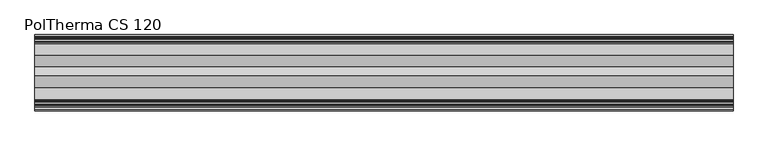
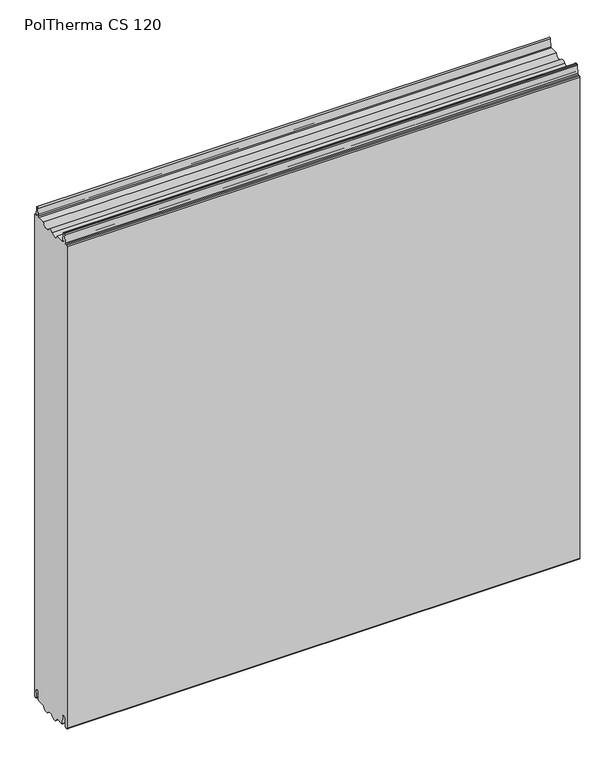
"""IFC4 building model written with IfcOpenShell, lengths in millimetres: plate geometry, Europanels_Poltherma CS_Hz : PolTherma CS 120."""

from ifc_helpers import new_model, si_unit, point, frame, frame_2d, origin, place, context, project, spatial, polyline, circle_curve, trimmed, segment, composite_curve, outline, extrude, source, transform, mapped, element, save


def poltherma_cs_120_fbbb0af5(model_context):
    return source(origin(), model_context, "Body", "SweptSolid", [
        extrude(outline(composite_curve([segment(polyline([(-60.0, 3.4988953), (-60.0, 1096.5011047)]), True, "CONTINUOUS"), segment(trimmed(circle_curve(frame_2d((-58.0, 1096.5011047)), 2.0), [point((-60.0, 1096.5011047))], [point((-58.0, 1098.5011047))], False, "CARTESIAN"), True, "CONTINUOUS"), segment(polyline([(-58.0, 1098.5011047), (-54.244573, 1098.5011047)]), True, "CONTINUOUS"), segment(trimmed(circle_curve(frame_2d((-54.244573, 1100.5011047)), 2.0), [point((-54.244573, 1098.5011047))], [point((-52.2483736, 1100.3778643))], True, "CARTESIAN"), True, "CONTINUOUS"), segment(polyline([(-52.2483736, 1100.3778643), (-51.1836192, 1117.624345)]), True, "CONTINUOUS"), segment(trimmed(circle_curve(frame_2d((-49.1874198, 1117.5011047)), 2.0), [point((-51.1836192, 1117.624345))], [point((-49.1874198, 1119.5011047))], False, "CARTESIAN"), True, "CONTINUOUS"), segment(polyline([(-49.1874198, 1119.5011047), (-46.4480373, 1119.5011047)]), True, "CONTINUOUS"), segment(trimmed(circle_curve(frame_2d((-46.4480373, 1117.5011047)), 2.0), [point((-46.4480373, 1119.5011047))], [point((-44.4498501, 1117.5862394))], False, "CARTESIAN"), True, "CONTINUOUS"), segment(polyline([(-44.4498501, 1117.5862394), (-43.7101357, 1100.2244834)]), True, "CONTINUOUS"), segment(trimmed(circle_curve(frame_2d((-41.9117672, 1100.3011047)), 1.8), [point((-43.7101357, 1100.2244834))], [point((-41.9117672, 1098.5011047))], True, "CARTESIAN"), True, "CONTINUOUS"), segment(polyline([(-41.9117672, 1098.5011047), (-22.9234285, 1098.5011047)]), True, "CONTINUOUS"), segment(trimmed(circle_curve(frame_2d((-12.3, 1101.354658)), 11.0), [point((-22.9234285, 1098.5011047))], [point((-4.05, 1094.0788419))], True, "CARTESIAN"), True, "CONTINUOUS"), segment(trimmed(circle_curve(frame_2d((2.7, 1088.1259015)), 9.0), [point((-4.05, 1094.0788419))], [point((9.45, 1094.0788419))], False, "CARTESIAN"), True, "CONTINUOUS"), segment(trimmed(circle_curve(frame_2d((17.7, 1101.354658)), 11.0), [point((9.45, 1094.0788419))], [point((28.3234285, 1098.5011047))], True, "CARTESIAN"), True, "CONTINUOUS"), segment(polyline([(28.3234285, 1098.5011047), (46.113894, 1098.5011047)]), True, "CONTINUOUS"), segment(trimmed(circle_curve(frame_2d((46.113894, 1100.5011047)), 2.0), [point((46.113894, 1098.5011047))], [point((48.1120505, 1100.4152514))], True, "CARTESIAN"), True, "CONTINUOUS"), segment(polyline([(48.1120505, 1100.4152514), (48.8434291, 1117.437418)]), True, "CONTINUOUS"), segment(trimmed(circle_curve(frame_2d((51.0191836, 1117.343934)), 2.1777619), [point((48.8434291, 1117.437418))], [point((53.1927202, 1117.4795275))], False, "CARTESIAN"), True, "CONTINUOUS"), segment(polyline([(53.1927202, 1117.4795275), (54.2596673, 1100.3765791)]), True, "CONTINUOUS"), segment(trimmed(circle_curve(frame_2d((56.2557869, 1100.5011047)), 2.0), [point((54.2596673, 1100.3765791))], [point((56.2557869, 1098.5011047))], True, "CARTESIAN"), True, "CONTINUOUS"), segment(polyline([(56.2557869, 1098.5011047), (58.0, 1098.5011047)]), True, "CONTINUOUS"), segment(trimmed(circle_curve(frame_2d((58.0, 1096.5011047)), 2.0), [point((58.0, 1098.5011047))], [point((60.0, 1096.5011047))], False, "CARTESIAN"), True, "CONTINUOUS"), segment(polyline([(60.0, 1096.5011047), (60.0, 3.8623872)]), True, "CONTINUOUS"), segment(trimmed(circle_curve(frame_2d((57.6319739, 3.8623872)), 2.3680261), [point((60.0, 3.8623872))], [point((55.2674058, 3.7344618))], False, "CARTESIAN"), True, "CONTINUOUS"), segment(polyline([(55.2674058, 3.7344618), (54.3293468, 21.0735079)]), True, "CONTINUOUS"), segment(trimmed(circle_curve(frame_2d((51.0496929, 20.8960755)), 3.28445), [point((54.3293468, 21.0735079))], [point((47.7706872, 21.085108))], True, "CARTESIAN"), True, "CONTINUOUS"), segment(polyline([(47.7706872, 21.085108), (46.7366349, 3.1481762)]), True, "CONTINUOUS"), segment(trimmed(circle_curve(frame_2d((44.9895357, 3.2488953)), 1.75), [point((46.7366349, 3.1481762))], [point((44.9895357, 1.4988953))], False, "CARTESIAN"), True, "CONTINUOUS"), segment(polyline([(44.9895357, 1.4988953), (27.5267156, 1.4988953)]), True, "CONTINUOUS"), segment(trimmed(circle_curve(frame_2d((17.7, 3.3524487)), 10.0), [point((27.5267156, 1.4988953))], [point((10.2, -3.2619295))], False, "CARTESIAN"), True, "CONTINUOUS"), segment(trimmed(circle_curve(frame_2d((2.7, -9.8763078)), 10.0), [point((10.2, -3.2619295))], [point((-4.8, -3.2619295))], True, "CARTESIAN"), True, "CONTINUOUS"), segment(trimmed(circle_curve(frame_2d((-12.3, 3.3524487)), 10.0), [point((-4.8, -3.2619295))], [point((-22.1267156, 1.4988953))], False, "CARTESIAN"), True, "CONTINUOUS"), segment(polyline([(-22.1267156, 1.4988953), (-40.5507777, 1.4988953)]), True, "CONTINUOUS"), segment(trimmed(circle_curve(frame_2d((-40.5507777, 3.2988953)), 1.8), [point((-40.5507777, 1.4988953))], [point((-42.3477941, 3.1952985))], False, "CARTESIAN"), True, "CONTINUOUS"), segment(polyline([(-42.3477941, 3.1952985), (-43.3842966, 21.1747334)]), True, "CONTINUOUS"), segment(trimmed(circle_curve(frame_2d((-46.3793238, 21.0020721)), 3.0), [point((-43.3842966, 21.1747334))], [point((-46.3793238, 24.0020721))], True, "CARTESIAN"), True, "CONTINUOUS"), segment(polyline([(-46.3793238, 24.0020721), (-49.3209015, 24.0020721)]), True, "CONTINUOUS"), segment(trimmed(circle_curve(frame_2d((-49.3209015, 21.0020721)), 3.0), [point((-49.3209015, 24.0020721))], [point((-52.3165207, 21.1641379))], True, "CARTESIAN"), True, "CONTINUOUS"), segment(polyline([(-52.3165207, 21.1641379), (-53.2780726, 3.3908514)]), True, "CONTINUOUS"), segment(trimmed(circle_curve(frame_2d((-55.2751521, 3.4988953)), 2.0), [point((-53.2780726, 3.3908514))], [point((-55.2751521, 1.4988953))], False, "CARTESIAN"), True, "CONTINUOUS"), segment(polyline([(-55.2751521, 1.4988953), (-58.0, 1.4988953)]), True, "CONTINUOUS"), segment(trimmed(circle_curve(frame_2d((-58.0, 3.4988953)), 2.0), [point((-58.0, 1.4988953))], [point((-60.0, 3.4988953))], False, "CARTESIAN"), True, "CONTINUOUS")], self_intersect=False)), frame((-550.0, 0.0, 0.0), z_axis=(1.0, 0.0, 0.0), x_axis=(0.0, 1.0, 0.0)), (0.0, 0.0, 1.0), 1100.0),
    ])


if __name__ == "__main__":
    model = new_model("IFC4")
    model_context = context("Model", 3, world=origin())
    ifc_project = project(units=[si_unit("LENGTHUNIT", "METRE", prefix="MILLI")], contexts=[model_context])
    site = spatial("IfcSite", under=ifc_project)
    building = spatial("IfcBuilding", under=site)
    placement = place(None, origin())
    poltherma_cs_120_shape = poltherma_cs_120_fbbb0af5(model_context)
    element("IfcPlate", 1, ObjectType="Europanels_Poltherma CS_Hz : PolTherma CS 120", at=placement, inside=building, context=model_context, shape_type="MappedRepresentation", body=[
        mapped(poltherma_cs_120_shape, transform((0.0, 0.0, 0.0), x_axis=(1.0, 0.0, 0.0), y_axis=(0.0, 1.0, 0.0), z_axis=(0.0, 0.0, 1.0))),
    ])
    save(model, "model.ifc")
